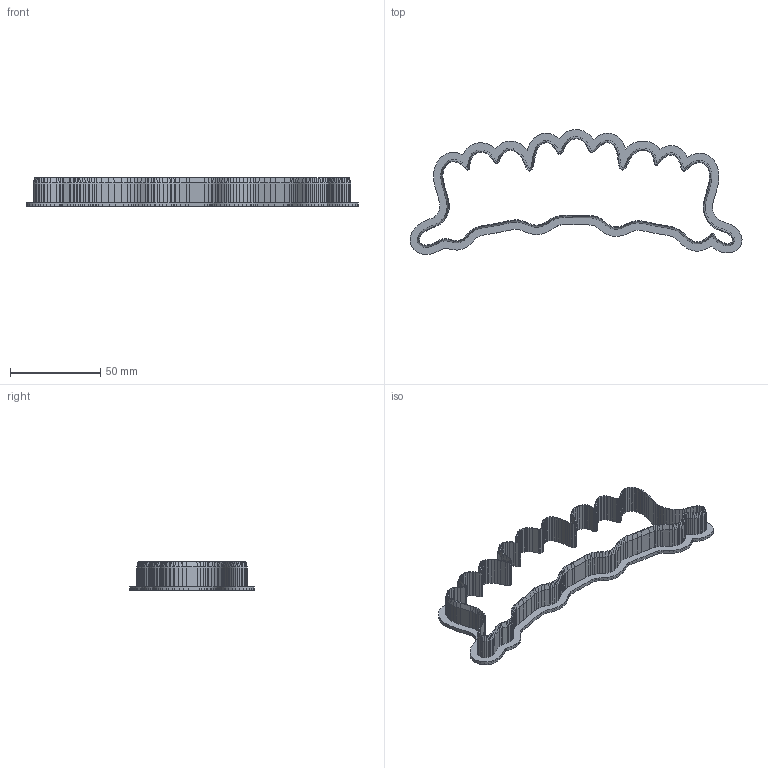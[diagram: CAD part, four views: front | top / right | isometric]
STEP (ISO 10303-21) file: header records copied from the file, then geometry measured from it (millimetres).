
FILE_DESCRIPTION(('Open CASCADE Model'),'2;1');
FILE_NAME('Open CASCADE Shape Model','2026-10-27T21:23:19',('Author'),( 'Open CASCADE'),'Open CASCADE STEP processor 7.9','Open CASCADE 7.9' ,'Unknown');
FILE_SCHEMA(('AUTOMOTIVE_DESIGN { 1 0 10303 214 1 1 1 1 }'));
Products named in the file (1): Open CASCADE STEP translator 7.9 4
Bounding box: 183.86 x 69.21 x 16 mm (x, y, z)
Volume: 13269.2 mm3; surface area: 21276.6 mm2
Topology: 1 solids, 1 shells, 1402 faces, 3825 edges, 2426 vertices
Faces by surface type: plane 1030, bspline 372
Entity records: 90126 total; most frequent: CARTESIAN_POINT 18886, DIRECTION 11071, LINE 9009, VECTOR 9009, ORIENTED_EDGE 7650, PCURVE 7650, DEFINITIONAL_REPRESENTATION 7650, EDGE_CURVE 3825
